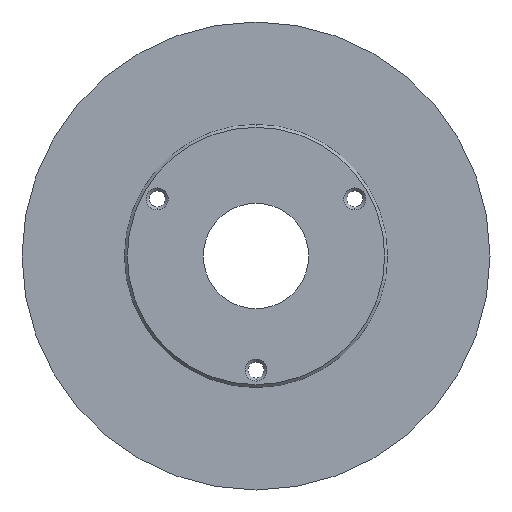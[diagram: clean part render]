
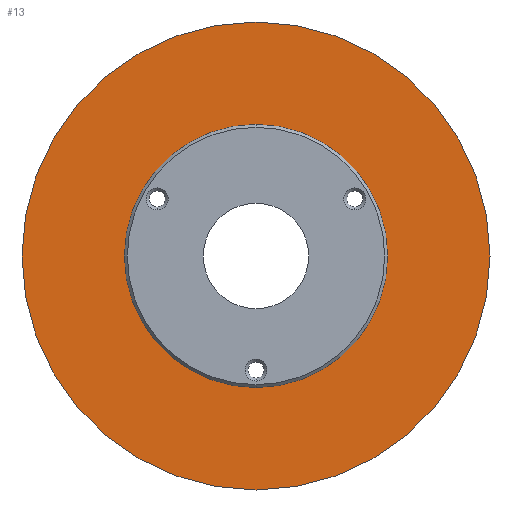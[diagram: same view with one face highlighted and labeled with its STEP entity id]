
A CAD part, front view. The second image highlights one B-rep face of the part: STEP entity #13.
In plain terms, the highlighted planar face has unit normal (0, -1, 0).
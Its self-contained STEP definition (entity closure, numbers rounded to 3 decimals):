
#8 = AXIS2_PLACEMENT_3D ( 'NONE', #456, #1095, #547 ) ;
#13 = ADVANCED_FACE ( 'NONE', ( #546, #279 ), #786, .F. ) ;
#55 = VERTEX_POINT ( 'NONE', #995 ) ;
#62 = EDGE_CURVE ( 'NONE', #582, #827, #122, .T. ) ;
#122 = CIRCLE ( 'NONE', #8, 45. ) ;
#169 = CARTESIAN_POINT ( 'NONE',  ( 0., 4., 0. ) ) ;
#199 = CIRCLE ( 'NONE', #235, 80. ) ;
#235 = AXIS2_PLACEMENT_3D ( 'NONE', #333, #955, #423 ) ;
#253 = CARTESIAN_POINT ( 'NONE',  ( 0., 4., 0. ) ) ;
#260 = ORIENTED_EDGE ( 'NONE', *, *, #1020, .T. ) ;
#268 = DIRECTION ( 'NONE',  ( 0., 0., -1. ) ) ;
#271 = CIRCLE ( 'NONE', #828, 80. ) ;
#279 = FACE_OUTER_BOUND ( 'NONE', #1055, .T. ) ;
#312 = ORIENTED_EDGE ( 'NONE', *, *, #62, .F. ) ;
#333 = CARTESIAN_POINT ( 'NONE',  ( 0., 4., 0. ) ) ;
#348 = DIRECTION ( 'NONE',  ( 0., 1., 0. ) ) ;
#352 = DIRECTION ( 'NONE',  ( 0., 0., -1. ) ) ;
#423 = DIRECTION ( 'NONE',  ( 0., 0., -1. ) ) ;
#446 = ORIENTED_EDGE ( 'NONE', *, *, #866, .T. ) ;
#456 = CARTESIAN_POINT ( 'NONE',  ( 0., 4., 0. ) ) ;
#546 = FACE_BOUND ( 'NONE', #898, .T. ) ;
#547 = DIRECTION ( 'NONE',  ( 0., 0., -1. ) ) ;
#559 = CIRCLE ( 'NONE', #568, 45. ) ;
#565 = CARTESIAN_POINT ( 'NONE',  ( 0., 4., -45. ) ) ;
#567 = EDGE_CURVE ( 'NONE', #827, #582, #559, .T. ) ;
#568 = AXIS2_PLACEMENT_3D ( 'NONE', #169, #809, #268 ) ;
#582 = VERTEX_POINT ( 'NONE', #712 ) ;
#712 = CARTESIAN_POINT ( 'NONE',  ( 0., 4., 45. ) ) ;
#719 = AXIS2_PLACEMENT_3D ( 'NONE', #793, #348, #975 ) ;
#786 = PLANE ( 'NONE',  #719 ) ;
#793 = CARTESIAN_POINT ( 'NONE',  ( -45., 4., 0. ) ) ;
#809 = DIRECTION ( 'NONE',  ( 0., -1., 0. ) ) ;
#813 = VERTEX_POINT ( 'NONE', #928 ) ;
#827 = VERTEX_POINT ( 'NONE', #565 ) ;
#828 = AXIS2_PLACEMENT_3D ( 'NONE', #253, #886, #352 ) ;
#866 = EDGE_CURVE ( 'NONE', #813, #55, #199, .T. ) ;
#886 = DIRECTION ( 'NONE',  ( 0., -1., 0. ) ) ;
#898 = EDGE_LOOP ( 'NONE', ( #1146, #312 ) ) ;
#928 = CARTESIAN_POINT ( 'NONE',  ( 0., 4., 80. ) ) ;
#955 = DIRECTION ( 'NONE',  ( 0., -1., 0. ) ) ;
#975 = DIRECTION ( 'NONE',  ( 0., 0., 1. ) ) ;
#995 = CARTESIAN_POINT ( 'NONE',  ( 0., 4., -80. ) ) ;
#1020 = EDGE_CURVE ( 'NONE', #55, #813, #271, .T. ) ;
#1055 = EDGE_LOOP ( 'NONE', ( #260, #446 ) ) ;
#1095 = DIRECTION ( 'NONE',  ( 0., -1., 0. ) ) ;
#1146 = ORIENTED_EDGE ( 'NONE', *, *, #567, .F. ) ;
